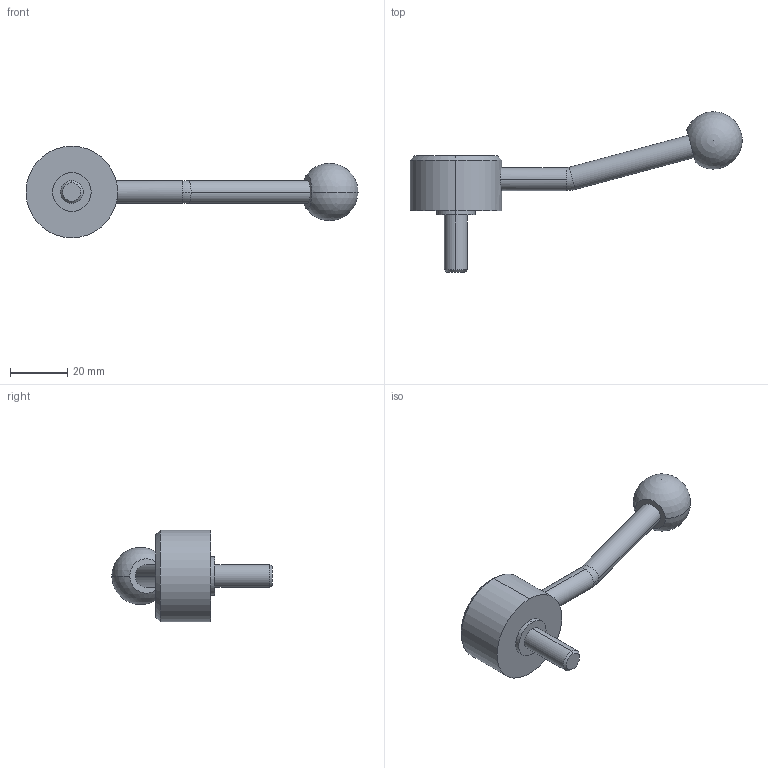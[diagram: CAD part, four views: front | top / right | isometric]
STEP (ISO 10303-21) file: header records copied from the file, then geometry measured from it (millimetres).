
FILE_DESCRIPTION (( 'STEP AP214' ), '1' );
FILE_NAME ('125.5-32-M8-20-E.step', '2020-02-18T11:26:25', ( '' ), ( '' ), 'SwSTEP 2.0', 'SolidWorks 2019', '' );
FILE_SCHEMA (( 'AUTOMOTIVE_DESIGN' ));
Length unit declared in the file: millimetre
Products named in the file (1): 125.5-32-M8-20-E
Bounding box: 115.96 x 56 x 32 mm (x, y, z)
Volume: 23944.2 mm3; surface area: 6844.4 mm2
Topology: 1 solids, 1 shells, 26 faces, 57 edges, 36 vertices
Faces by surface type: cylinder 12, plane 6, cone 4, torus 2, sphere 2
Entity records: 852 total; most frequent: CARTESIAN_POINT 178, DIRECTION 138, ORIENTED_EDGE 104, AXIS2_PLACEMENT_3D 61, EDGE_CURVE 52, CIRCLE 34, VERTEX_POINT 33, EDGE_LOOP 31
